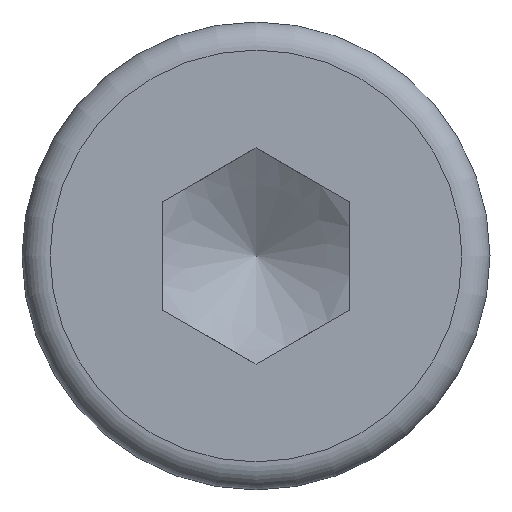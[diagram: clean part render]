
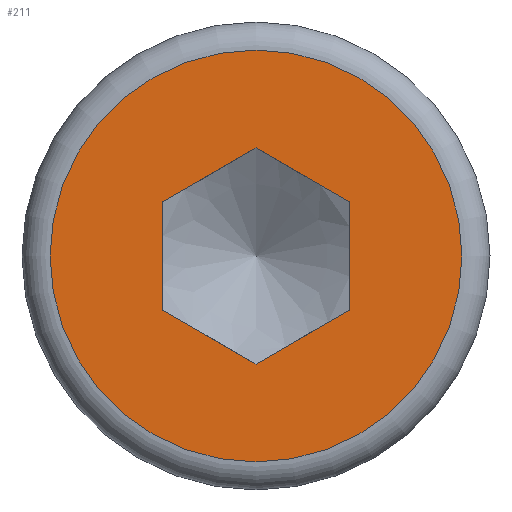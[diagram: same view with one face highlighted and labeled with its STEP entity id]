
A CAD part, left-side view. The second image highlights one B-rep face of the part: STEP entity #211.
In plain terms, the highlighted planar face has unit normal (-1, 0, 0).
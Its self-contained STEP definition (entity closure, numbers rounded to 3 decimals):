
#130=CARTESIAN_POINT('',(-4.,4.4,0.0));
#131=VERTEX_POINT('',#130);
#132=CARTESIAN_POINT('',(-4.,0.,0.0));
#133=DIRECTION('',(1.0,0.0,0.0));
#134=DIRECTION('',(0.0,-1.0,0.0));
#135=AXIS2_PLACEMENT_3D('',#132,#133,#134);
#136=CIRCLE('',#135,4.4);
#137=EDGE_CURVE('',#131,#131,#136,.T.);
#153=CARTESIAN_POINT('',(-4.,3.655,0.0));
#154=DIRECTION('',(-1.0,0.0,0.0));
#155=DIRECTION('',(0.0,0.0,1.0));
#156=AXIS2_PLACEMENT_3D('',#153,#154,#155);
#157=PLANE('',#156);
#158=ORIENTED_EDGE('',*,*,#137,.F.);
#159=EDGE_LOOP('',(#158));
#160=FACE_OUTER_BOUND('',#159,.T.);
#161=CARTESIAN_POINT('',(-4.,2.,-1.155));
#162=VERTEX_POINT('',#161);
#163=CARTESIAN_POINT('',(-4.,2.,1.155));
#164=VERTEX_POINT('',#163);
#165=CARTESIAN_POINT('',(-4.,2.,-1.155));
#166=DIRECTION('',(0.0,0.0,1.0));
#167=VECTOR('',#166,2.309);
#168=LINE('',#165,#167);
#169=EDGE_CURVE('',#162,#164,#168,.T.);
#170=ORIENTED_EDGE('',*,*,#169,.T.);
#171=CARTESIAN_POINT('',(-4.,0.,2.309));
#172=VERTEX_POINT('',#171);
#173=CARTESIAN_POINT('',(-4.,2.,1.155));
#174=DIRECTION('',(0.0,-0.866,0.5));
#175=VECTOR('',#174,2.309);
#176=LINE('',#173,#175);
#177=EDGE_CURVE('',#164,#172,#176,.T.);
#178=ORIENTED_EDGE('',*,*,#177,.T.);
#179=CARTESIAN_POINT('',(-4.,-2.0,1.155));
#180=VERTEX_POINT('',#179);
#181=CARTESIAN_POINT('',(-4.,0.,2.309));
#182=DIRECTION('',(0.0,-0.866,-0.5));
#183=VECTOR('',#182,2.309);
#184=LINE('',#181,#183);
#185=EDGE_CURVE('',#172,#180,#184,.T.);
#186=ORIENTED_EDGE('',*,*,#185,.T.);
#187=CARTESIAN_POINT('',(-4.,-2.,-1.155));
#188=VERTEX_POINT('',#187);
#189=CARTESIAN_POINT('',(-4.,-2.,1.155));
#190=DIRECTION('',(0.0,0.0,-1.0));
#191=VECTOR('',#190,2.309);
#192=LINE('',#189,#191);
#193=EDGE_CURVE('',#180,#188,#192,.T.);
#194=ORIENTED_EDGE('',*,*,#193,.T.);
#195=CARTESIAN_POINT('',(-4.,0.,-2.309));
#196=VERTEX_POINT('',#195);
#197=CARTESIAN_POINT('',(-4.,-2.,-1.155));
#198=DIRECTION('',(0.0,0.866,-0.5));
#199=VECTOR('',#198,2.309);
#200=LINE('',#197,#199);
#201=EDGE_CURVE('',#188,#196,#200,.T.);
#202=ORIENTED_EDGE('',*,*,#201,.T.);
#203=CARTESIAN_POINT('',(-4.,0.,-2.309));
#204=DIRECTION('',(0.0,0.866,0.5));
#205=VECTOR('',#204,2.309);
#206=LINE('',#203,#205);
#207=EDGE_CURVE('',#196,#162,#206,.T.);
#208=ORIENTED_EDGE('',*,*,#207,.T.);
#209=EDGE_LOOP('',(#170,#178,#186,#194,#202,#208));
#210=FACE_BOUND('',#209,.T.);
#211=ADVANCED_FACE('',(#160,#210),#157,.T.);
